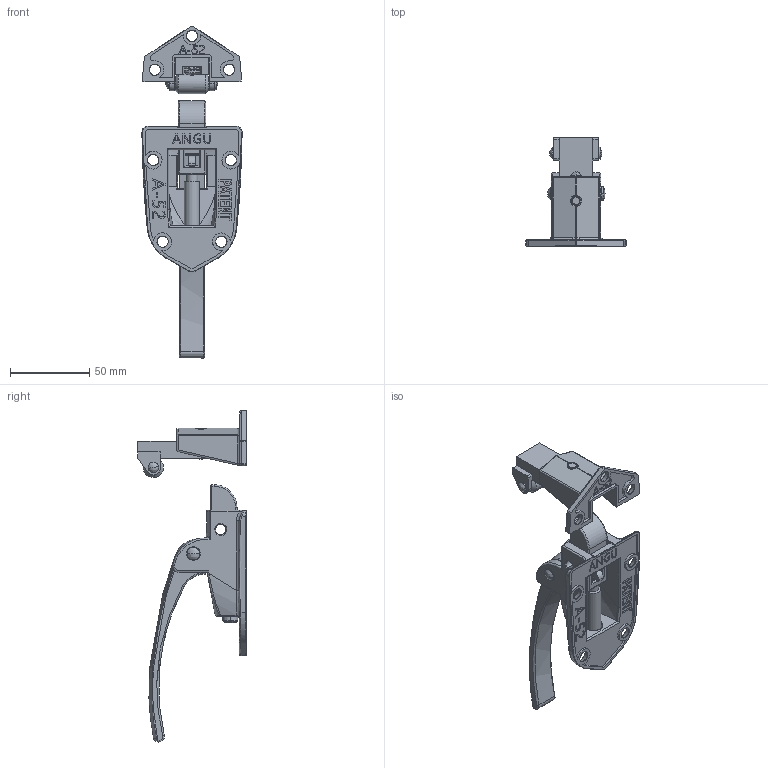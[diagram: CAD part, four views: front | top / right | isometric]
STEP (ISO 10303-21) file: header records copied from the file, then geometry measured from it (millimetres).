
FILE_DESCRIPTION(/* description */ (''),/* implementation_level */ '2;1');
FILE_NAME(/* name */ 'A-52-1 不鏽鋼迫緊把手',/* time_stamp */ '2023-05-09T09:10:08+08:00',/* author */ (''),/* organization */ (''),/* preprocessor_version */ 'ST-DEVELOPER v16.5',/* originating_system */ 'Rhino 7.28',/* authorisation */ '');
FILE_SCHEMA (('CONFIG_CONTROL_DESIGN'));
Length unit declared in the file: millimetre
Products named in the file (1): Document
Bounding box: 63.17 x 68.4 x 209.42 mm (x, y, z)
Volume: 38800.7 mm3; surface area: 45720.3 mm2
Topology: 7 solids, 9 shells, 970 faces, 2570 edges, 1600 vertices
Faces by surface type: bspline 369, plane 310, cylinder 291
Entity records: 50312 total; most frequent: CARTESIAN_POINT 34492, ORIENTED_EDGE 5065, EDGE_CURVE 2540, B_SPLINE_CURVE_WITH_KNOTS 1603, VERTEX_POINT 1600, EDGE_LOOP 1030, ADVANCED_FACE 970, FACE_OUTER_BOUND 970
